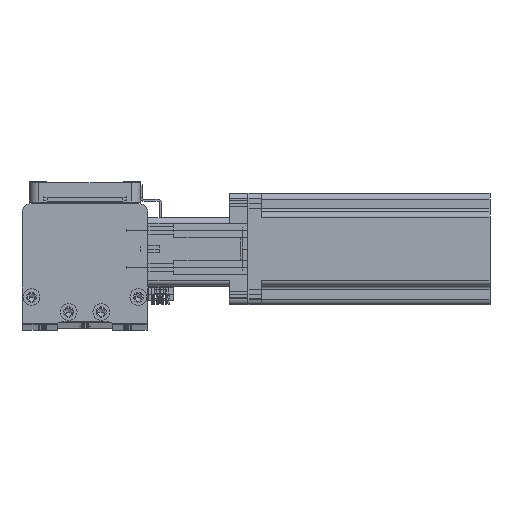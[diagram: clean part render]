
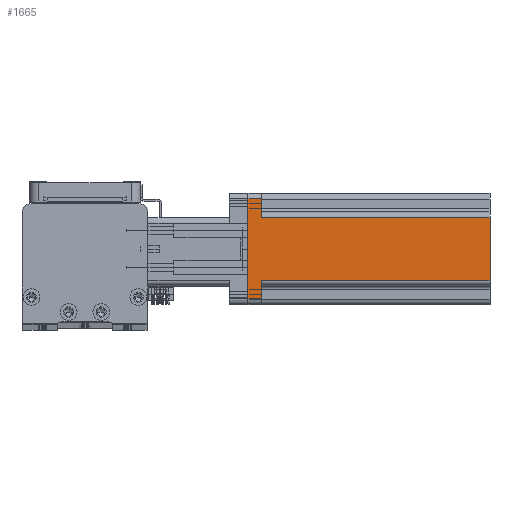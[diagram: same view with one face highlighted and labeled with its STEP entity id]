
A CAD part, top view. The second image highlights one B-rep face of the part: STEP entity #1665.
In plain terms, the highlighted planar face has unit normal (0, 0, 1) as drawn and (1, 0, 0) by its records, which use the part's own axes.
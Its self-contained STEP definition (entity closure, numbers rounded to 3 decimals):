
#1665 = ADVANCED_FACE ( 'NONE', ( #25794 ), #25886, .F. ) ;
#2023 = EDGE_CURVE ( 'NONE', #38461, #19053, #20508, .T. ) ;
#2264 = CARTESIAN_POINT ( 'NONE',  ( 30., -30., 130.7 ) ) ;
#3143 = LINE ( 'NONE', #29269, #15482 ) ;
#3522 = VERTEX_POINT ( 'NONE', #13932 ) ;
#3947 = CARTESIAN_POINT ( 'NONE',  ( 30., 27., 7.5 ) ) ;
#3958 = VERTEX_POINT ( 'NONE', #45879 ) ;
#4134 = LINE ( 'NONE', #8988, #47061 ) ;
#4999 = CARTESIAN_POINT ( 'NONE',  ( 30., -30., 0. ) ) ;
#5267 = EDGE_CURVE ( 'NONE', #41736, #3522, #22745, .T. ) ;
#7354 = VECTOR ( 'NONE', #27625, 1000. ) ;
#7413 = VECTOR ( 'NONE', #9013, 1000. ) ;
#7773 = EDGE_LOOP ( 'NONE', ( #30966, #15282, #53137, #44740, #26306, #13315, #43587, #29310 ) ) ;
#8151 = CARTESIAN_POINT ( 'NONE',  ( 30., 17., 7.5 ) ) ;
#8988 = CARTESIAN_POINT ( 'NONE',  ( 30., 17., 130.7 ) ) ;
#9013 = DIRECTION ( 'NONE',  ( 0., 1., 0. ) ) ;
#10183 = EDGE_CURVE ( 'NONE', #38161, #31692, #3143, .T. ) ;
#11473 = CARTESIAN_POINT ( 'NONE',  ( 30., -17., 130.7 ) ) ;
#13315 = ORIENTED_EDGE ( 'NONE', *, *, #10183, .T. ) ;
#13932 = CARTESIAN_POINT ( 'NONE',  ( 30., 17., 130.7 ) ) ;
#14858 = EDGE_CURVE ( 'NONE', #42460, #31692, #29535, .T. ) ;
#15282 = ORIENTED_EDGE ( 'NONE', *, *, #23510, .T. ) ;
#15482 = VECTOR ( 'NONE', #45955, 1000. ) ;
#17731 = DIRECTION ( 'NONE',  ( -1., 0., 0. ) ) ;
#19053 = VERTEX_POINT ( 'NONE', #21176 ) ;
#20508 = LINE ( 'NONE', #40619, #52419 ) ;
#21176 = CARTESIAN_POINT ( 'NONE',  ( 30., -27., 7.5 ) ) ;
#22745 = LINE ( 'NONE', #2264, #33868 ) ;
#23510 = EDGE_CURVE ( 'NONE', #41736, #38461, #39212, .T. ) ;
#24631 = AXIS2_PLACEMENT_3D ( 'NONE', #42629, #17731, #46804 ) ;
#25794 = FACE_OUTER_BOUND ( 'NONE', #7773, .T. ) ;
#25886 = PLANE ( 'NONE',  #24631 ) ;
#25976 = CARTESIAN_POINT ( 'NONE',  ( 30., -27., 130.7 ) ) ;
#26306 = ORIENTED_EDGE ( 'NONE', *, *, #27417, .T. ) ;
#26345 = CARTESIAN_POINT ( 'NONE',  ( 30., 27., 0. ) ) ;
#27417 = EDGE_CURVE ( 'NONE', #3958, #38161, #38507, .T. ) ;
#27625 = DIRECTION ( 'NONE',  ( 0., 0., -1. ) ) ;
#28259 = DIRECTION ( 'NONE',  ( 0., -1., 0. ) ) ;
#29269 = CARTESIAN_POINT ( 'NONE',  ( 30., 27., 130.7 ) ) ;
#29310 = ORIENTED_EDGE ( 'NONE', *, *, #47344, .T. ) ;
#29535 = LINE ( 'NONE', #46656, #7413 ) ;
#29928 = DIRECTION ( 'NONE',  ( 0., 1., 0. ) ) ;
#30222 = DIRECTION ( 'NONE',  ( 0., 0., -1. ) ) ;
#30966 = ORIENTED_EDGE ( 'NONE', *, *, #5267, .F. ) ;
#31328 = DIRECTION ( 'NONE',  ( 0., 1., 0. ) ) ;
#31692 = VERTEX_POINT ( 'NONE', #3947 ) ;
#33868 = VECTOR ( 'NONE', #31328, 1000. ) ;
#34557 = EDGE_CURVE ( 'NONE', #19053, #3958, #46511, .T. ) ;
#35518 = VECTOR ( 'NONE', #30222, 1000. ) ;
#38161 = VERTEX_POINT ( 'NONE', #26345 ) ;
#38461 = VERTEX_POINT ( 'NONE', #45587 ) ;
#38507 = LINE ( 'NONE', #4999, #49537 ) ;
#39212 = LINE ( 'NONE', #52513, #7354 ) ;
#40619 = CARTESIAN_POINT ( 'NONE',  ( 30., -30., 7.5 ) ) ;
#41736 = VERTEX_POINT ( 'NONE', #11473 ) ;
#42460 = VERTEX_POINT ( 'NONE', #8151 ) ;
#42629 = CARTESIAN_POINT ( 'NONE',  ( 30., -30., 130.7 ) ) ;
#43587 = ORIENTED_EDGE ( 'NONE', *, *, #14858, .F. ) ;
#44740 = ORIENTED_EDGE ( 'NONE', *, *, #34557, .T. ) ;
#45587 = CARTESIAN_POINT ( 'NONE',  ( 30., -17., 7.5 ) ) ;
#45879 = CARTESIAN_POINT ( 'NONE',  ( 30., -27., 0. ) ) ;
#45955 = DIRECTION ( 'NONE',  ( 0., 0., 1. ) ) ;
#46455 = DIRECTION ( 'NONE',  ( 0., 0., 1. ) ) ;
#46511 = LINE ( 'NONE', #25976, #35518 ) ;
#46656 = CARTESIAN_POINT ( 'NONE',  ( 30., 30., 7.5 ) ) ;
#46804 = DIRECTION ( 'NONE',  ( 0., 0., 1. ) ) ;
#47061 = VECTOR ( 'NONE', #46455, 1000. ) ;
#47344 = EDGE_CURVE ( 'NONE', #42460, #3522, #4134, .T. ) ;
#49537 = VECTOR ( 'NONE', #29928, 1000. ) ;
#52419 = VECTOR ( 'NONE', #28259, 1000. ) ;
#52513 = CARTESIAN_POINT ( 'NONE',  ( 30., -17., 7.5 ) ) ;
#53137 = ORIENTED_EDGE ( 'NONE', *, *, #2023, .T. ) ;
